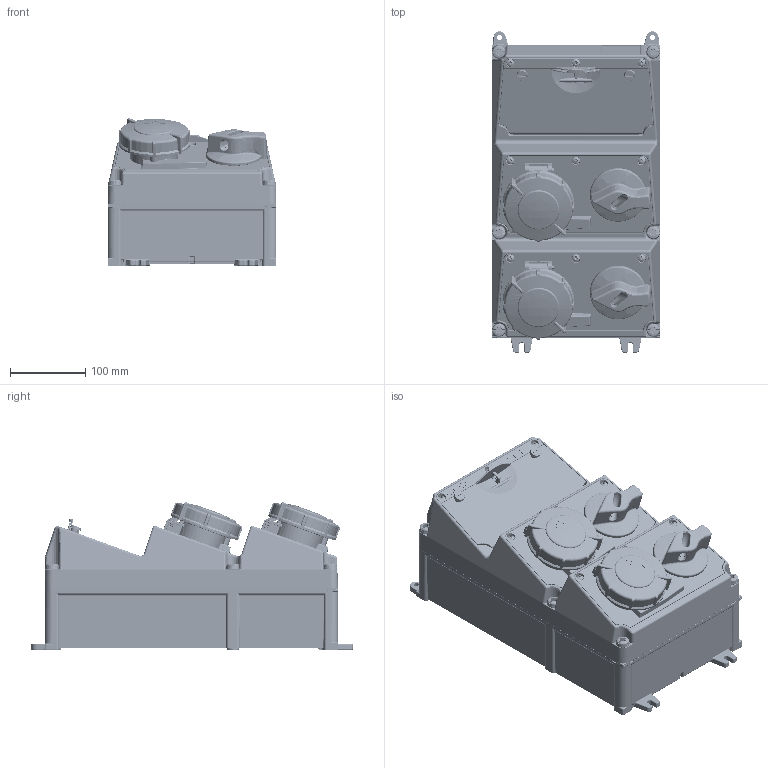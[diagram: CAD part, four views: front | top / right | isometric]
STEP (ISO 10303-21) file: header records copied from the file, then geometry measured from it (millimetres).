
FILE_DESCRIPTION((''),'2;1');
FILE_NAME('934285-1_ASM_1_ASM','2018-06-12T',('kremer'),('MENNEKES'),'PRO/ENGINEER BY PARAMETRIC TECHNOLOGY CORPORATION, 2015440','PRO/ENGINEER BY PARAMETRIC TECHNOLOGY CORPORATION, 2015440','');
FILE_SCHEMA(('AUTOMOTIVE_DESIGN { 1 0 10303 214 1 1 1 1 }'));
Products named in the file (6): 3-4_SW_G_GRAU_1; FI_2POL_2TE_1; MP_FEN10_67_OBEN_GRAU_1; BAUTEIL_DUMMY__1; MP_DUO_32_3_67_BLAU_GRAU_1; 934285-1_ASM_1_ASM
Assembly tree (7 placements, depth 2):
  934285-1_ASM_1_ASM
    3-4_SW_G_GRAU_1
    FI_2POL_2TE_1  x2
    MP_FEN10_67_OBEN_GRAU_1
    BAUTEIL_DUMMY__1
    MP_DUO_32_3_67_BLAU_GRAU_1  x2
Bounding box: 225 x 428.2 x 196.64 mm (x, y, z)
Volume: 9281734.4 mm3; surface area: 1001496.1 mm2
Topology: 6 solids, 6 shells, 11375 faces, 30775 edges, 19379 vertices
Faces by surface type: plane 5842, cylinder 2749, bspline 1116, torus 907, cone 357, sphere 300, extrusion 104
Entity records: 388008 total; most frequent: CARTESIAN_POINT 111408, ORIENTED_EDGE 42192, DIRECTION 36439, EDGE_CURVE 21096, PRESENTATION_STYLE_ASSIGNMENT 16832, STYLED_ITEM 14031, VERTEX_POINT 13283, AXIS2_PLACEMENT_3D 12333
